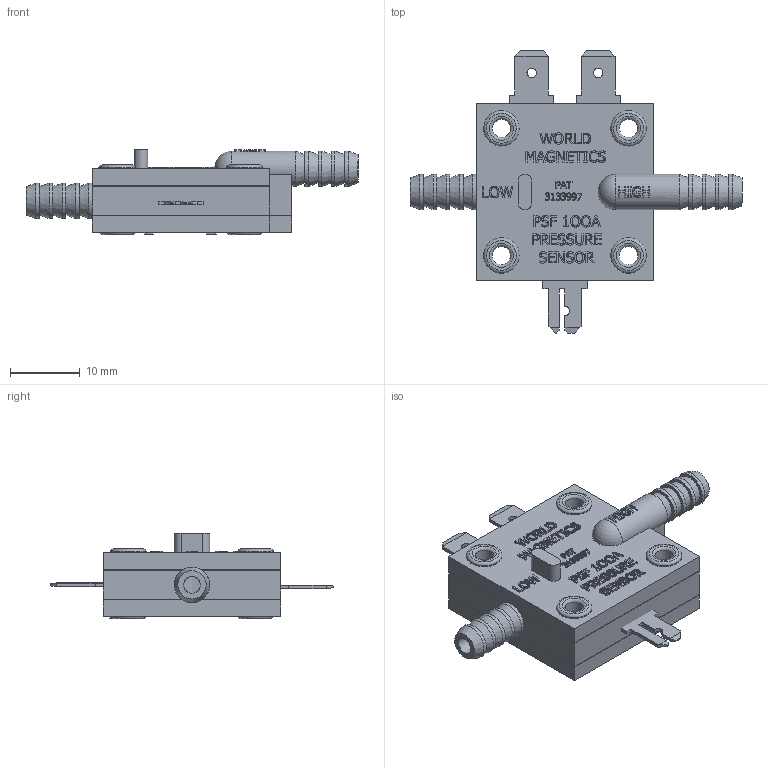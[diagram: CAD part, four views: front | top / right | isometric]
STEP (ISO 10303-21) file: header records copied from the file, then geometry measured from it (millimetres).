
FILE_DESCRIPTION(/* description */ (''),/* implementation_level */ '2;1');
FILE_NAME(/* name */ 'G:\DRAWINGS\SWITCH\INVENTOR DRAWINGS\WORLD MAGNETICS SWITCH\WM SALES STP FILES\PSF-200A.stp',/* time_stamp */ '2016-01-20T10:37:39-05:00',/* author */ ('dale'),/* organization */ (''),/* preprocessor_version */ 'ST-DEVELOPER v15.2',/* originating_system */ 'Autodesk Inventor 2014',/* authorisation */ '');
FILE_SCHEMA (('CONFIG_CONTROL_DESIGN'));
Length unit declared in the file: inch
Products named in the file (9): 60101; 60226; 60226_1; 60481; 60484; 60065-STP; 60103-STP; 60455; PSF-200A
Bounding box: 47.62 x 40.49 x 12.24 mm (x, y, z)
Volume: 4940.9 mm3; surface area: 6877.5 mm2
Topology: 10 solids, 10 shells, 1175 faces, 3086 edges, 2047 vertices
Faces by surface type: plane 659, bspline 389, cylinder 84, torus 32, cone 10, sphere 1
Full cylindrical faces by diameter (mm): 1.346 x2, 1.422 x8, 1.549 x8, 2.413 x2, 2.616 x4, 3.124 x4, 3.226 x12, 4.572 x4, 4.826 x4, 5.08 x14, 19.05 x2
Entity records: 44076 total; most frequent: CARTESIAN_POINT 17765, ORIENTED_EDGE 5806, DIRECTION 3820, EDGE_CURVE 2903, VERTEX_POINT 1972, LINE 1912, VECTOR 1912, EDGE_LOOP 1325
